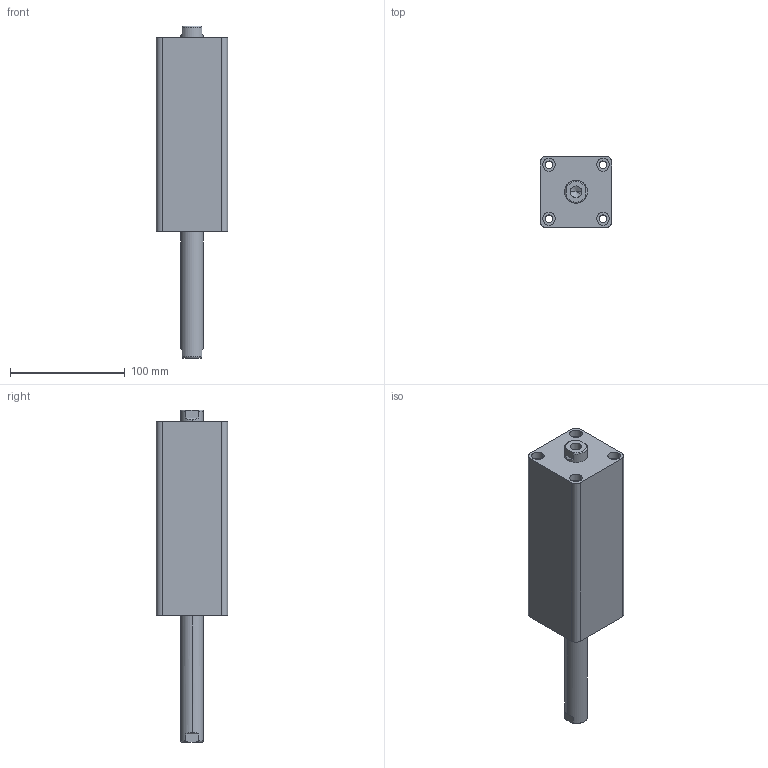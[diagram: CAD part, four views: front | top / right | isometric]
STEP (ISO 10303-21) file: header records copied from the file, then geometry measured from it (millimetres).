
FILE_DESCRIPTION (( 'STEP AP203' ), '1' );
FILE_NAME ('HTB-SW32-100N.STEP', '2019-10-07T09:00:44', ( '微软用户' ), ( '微软中国' ), 'SwSTEP 2.0', 'SolidWorks 2012', '' );
FILE_SCHEMA (( 'CONFIG_CONTROL_DESIGN' ));
Length unit declared in the file: millimetre
Products named in the file (3): HTB-SW32-100N; HTB-SW32-100N活塞杆; HTB-SW32-100掛极
Assembly tree (2 placements, depth 2):
  HTB-SW32-100N
    HTB-SW32-100掛极
    HTB-SW32-100N活塞杆
Bounding box: 62 x 62 x 289 mm (x, y, z)
Volume: 601940.1 mm3; surface area: 100362.1 mm2
Topology: 2 solids, 2 shells, 100 faces, 228 edges, 146 vertices
Faces by surface type: cylinder 48, plane 32, torus 12, cone 8
Entity records: 3237 total; most frequent: CARTESIAN_POINT 595, DIRECTION 542, ORIENTED_EDGE 448, AXIS2_PLACEMENT_3D 229, EDGE_CURVE 224, VERTEX_POINT 146, EDGE_LOOP 128, CIRCLE 124
